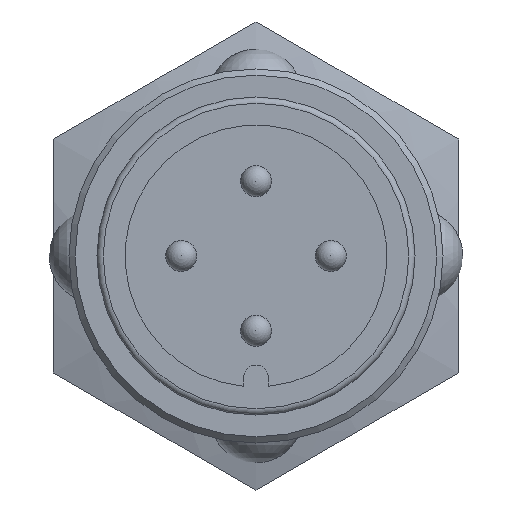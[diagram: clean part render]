
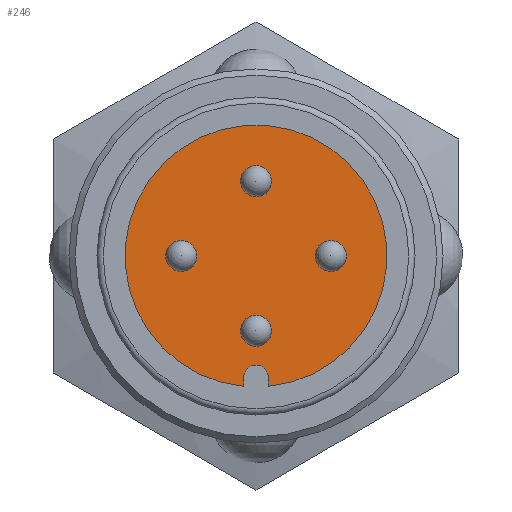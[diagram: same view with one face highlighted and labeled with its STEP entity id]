
A CAD part, front view. The second image highlights one B-rep face of the part: STEP entity #246.
In plain terms, the highlighted planar face has unit normal (0, -1, 0).
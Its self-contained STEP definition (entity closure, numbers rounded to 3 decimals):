
#162=LINE('',#1300,#176);
#163=LINE('',#1305,#177);
#176=VECTOR('',#916,1.);
#177=VECTOR('',#919,1.);
#221=PLANE('',#803);
#246=ADVANCED_FACE('',(#351,#352,#353,#354,#355),#221,.T.);
#308=CIRCLE('',#797,0.5);
#309=CIRCLE('',#798,0.5);
#310=CIRCLE('',#799,0.5);
#311=CIRCLE('',#800,0.5);
#312=CIRCLE('',#801,4.2);
#313=CIRCLE('',#802,0.4);
#351=FACE_BOUND('',#416,.T.);
#352=FACE_BOUND('',#417,.T.);
#353=FACE_BOUND('',#418,.T.);
#354=FACE_BOUND('',#419,.T.);
#355=FACE_BOUND('',#420,.T.);
#416=EDGE_LOOP('',(#501));
#417=EDGE_LOOP('',(#502));
#418=EDGE_LOOP('',(#503));
#419=EDGE_LOOP('',(#504));
#420=EDGE_LOOP('',(#505,#506,#507,#508));
#501=ORIENTED_EDGE('',*,*,#711,.F.);
#502=ORIENTED_EDGE('',*,*,#712,.F.);
#503=ORIENTED_EDGE('',*,*,#713,.F.);
#504=ORIENTED_EDGE('',*,*,#714,.F.);
#505=ORIENTED_EDGE('',*,*,#715,.F.);
#506=ORIENTED_EDGE('',*,*,#716,.T.);
#507=ORIENTED_EDGE('',*,*,#717,.F.);
#508=ORIENTED_EDGE('',*,*,#718,.F.);
#645=VERTEX_POINT('',#1293);
#646=VERTEX_POINT('',#1295);
#647=VERTEX_POINT('',#1297);
#648=VERTEX_POINT('',#1299);
#649=VERTEX_POINT('',#1301);
#650=VERTEX_POINT('',#1302);
#651=VERTEX_POINT('',#1304);
#652=VERTEX_POINT('',#1306);
#711=EDGE_CURVE('',#645,#645,#308,.T.);
#712=EDGE_CURVE('',#646,#646,#309,.T.);
#713=EDGE_CURVE('',#647,#647,#310,.T.);
#714=EDGE_CURVE('',#648,#648,#311,.T.);
#715=EDGE_CURVE('',#649,#650,#162,.T.);
#716=EDGE_CURVE('',#649,#651,#312,.T.);
#717=EDGE_CURVE('',#652,#651,#163,.T.);
#718=EDGE_CURVE('',#650,#652,#313,.T.);
#797=AXIS2_PLACEMENT_3D('',#1292,#908,#909);
#798=AXIS2_PLACEMENT_3D('',#1294,#910,#911);
#799=AXIS2_PLACEMENT_3D('',#1296,#912,#913);
#800=AXIS2_PLACEMENT_3D('',#1298,#914,#915);
#801=AXIS2_PLACEMENT_3D('',#1303,#917,#918);
#802=AXIS2_PLACEMENT_3D('',#1307,#920,#921);
#803=AXIS2_PLACEMENT_3D('',#1308,#922,#923);
#908=DIRECTION('',(0.,-1.,0.));
#909=DIRECTION('',(0.,0.,-1.));
#910=DIRECTION('',(0.,-1.,0.));
#911=DIRECTION('',(0.,0.,-1.));
#912=DIRECTION('',(0.,-1.,0.));
#913=DIRECTION('',(0.,0.,-1.));
#914=DIRECTION('',(0.,-1.,0.));
#915=DIRECTION('',(0.,0.,-1.));
#916=DIRECTION('',(0.,0.,1.));
#917=DIRECTION('',(0.,-1.,0.));
#918=DIRECTION('',(1.,0.,0.));
#919=DIRECTION('',(0.,0.,-1.));
#920=DIRECTION('',(0.,-1.,0.));
#921=DIRECTION('',(-0.707,0.,0.707));
#922=DIRECTION('',(0.,-1.,0.));
#923=DIRECTION('',(0.,0.,1.));
#1292=CARTESIAN_POINT('',(-12.582,-17.,26.258));
#1293=CARTESIAN_POINT('',(-12.582,-17.,25.758));
#1294=CARTESIAN_POINT('',(-10.182,-17.,28.658));
#1295=CARTESIAN_POINT('',(-10.182,-17.,28.158));
#1296=CARTESIAN_POINT('',(-7.782,-17.,26.258));
#1297=CARTESIAN_POINT('',(-7.782,-17.,25.758));
#1298=CARTESIAN_POINT('',(-10.182,-17.,23.858));
#1299=CARTESIAN_POINT('',(-10.182,-17.,23.358));
#1300=CARTESIAN_POINT('',(-9.782,-17.,22.058));
#1301=CARTESIAN_POINT('',(-9.782,-17.,22.077));
#1302=CARTESIAN_POINT('',(-9.782,-17.,22.358));
#1303=CARTESIAN_POINT('',(-10.182,-17.,26.258));
#1304=CARTESIAN_POINT('',(-10.582,-17.,22.077));
#1305=CARTESIAN_POINT('',(-10.582,-17.,22.358));
#1306=CARTESIAN_POINT('',(-10.582,-17.,22.358));
#1307=CARTESIAN_POINT('',(-10.182,-17.,22.358));
#1308=CARTESIAN_POINT('',(-10.182,-17.,26.258));
